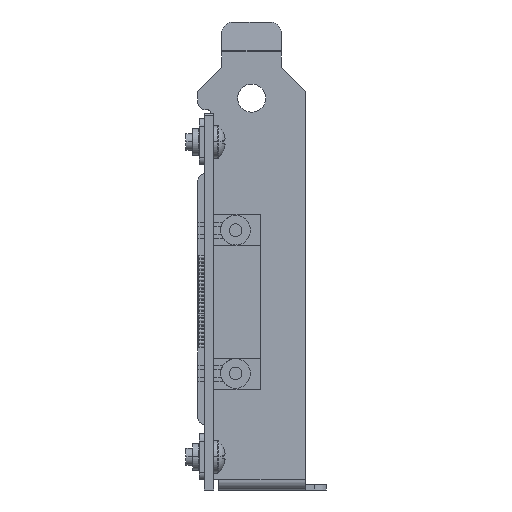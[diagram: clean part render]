
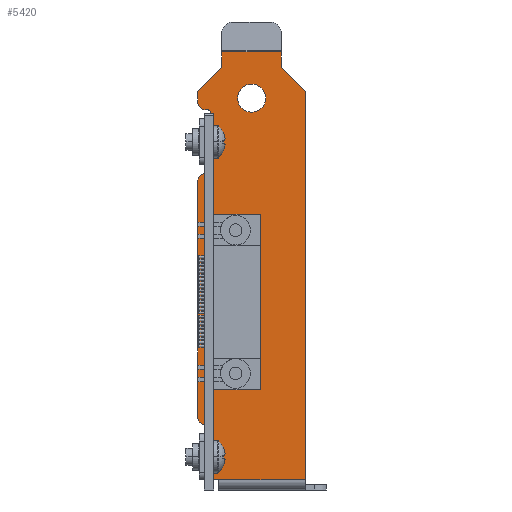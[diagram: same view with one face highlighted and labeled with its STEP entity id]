
A CAD part, front view. The second image highlights one B-rep face of the part: STEP entity #5420.
In plain terms, the highlighted planar face has unit normal (0, -1, 0).
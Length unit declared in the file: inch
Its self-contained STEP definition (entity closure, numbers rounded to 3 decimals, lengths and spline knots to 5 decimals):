
#175=CARTESIAN_POINT('',(0.005,0.336,0.267));
#176=DIRECTION('',(0.,-1.,0.));
#177=DIRECTION('',(-1.,0.,0.));
#178=AXIS2_PLACEMENT_3D('',#175,#176,#177);
#180=DIRECTION('',(-0.707,0.,-0.707));
#181=VECTOR('',#180,0.2291);
#182=CARTESIAN_POINT('',(0.117,0.336,0.502));
#183=LINE('',#182,#181);
#184=DIRECTION('',(0.,0.,-1.));
#185=VECTOR('',#184,0.104);
#186=CARTESIAN_POINT('',(0.117,0.336,0.606));
#187=LINE('',#186,#185);
#188=DIRECTION('',(1.,0.,0.));
#189=VECTOR('',#188,0.401);
#190=CARTESIAN_POINT('',(0.117,0.336,0.606));
#191=LINE('',#190,#189);
#192=DIRECTION('',(0.,0.,-1.));
#193=VECTOR('',#192,0.104);
#194=CARTESIAN_POINT('',(0.518,0.336,0.606));
#195=LINE('',#194,#193);
#196=DIRECTION('',(-0.707,0.,0.707));
#197=VECTOR('',#196,0.2291);
#198=CARTESIAN_POINT('',(0.68,0.336,0.34));
#199=LINE('',#198,#197);
#200=DIRECTION('',(0.,0.,1.));
#201=VECTOR('',#200,2.618);
#202=CARTESIAN_POINT('',(0.68,0.336,-2.278));
#203=LINE('',#202,#201);
#204=DIRECTION('',(-1.,0.,0.));
#205=VECTOR('',#204,0.584);
#206=CARTESIAN_POINT('',(0.68,0.336,-2.278));
#207=LINE('',#206,#205);
#208=DIRECTION('',(0.,0.,1.));
#209=VECTOR('',#208,0.312);
#210=CARTESIAN_POINT('',(0.015,0.336,-2.278));
#211=LINE('',#210,#209);
#212=CARTESIAN_POINT('',(0.015,0.336,-1.936));
#213=DIRECTION('',(0.,1.,0.));
#214=DIRECTION('',(0.,0.,1.));
#215=AXIS2_PLACEMENT_3D('',#212,#213,#214);
#217=DIRECTION('',(1.,0.,0.));
#218=VECTOR('',#217,0.01);
#219=CARTESIAN_POINT('',(0.005,0.336,-1.906));
#220=LINE('',#219,#218);
#221=DIRECTION('',(1.,0.,0.));
#222=VECTOR('',#221,0.01);
#223=CARTESIAN_POINT('',(0.005,0.336,-0.216));
#224=LINE('',#223,#222);
#225=CARTESIAN_POINT('',(0.015,0.336,-0.186));
#226=DIRECTION('',(0.,1.,0.));
#227=DIRECTION('',(0.,0.,1.));
#228=AXIS2_PLACEMENT_3D('',#225,#226,#227);
#230=DIRECTION('',(0.,0.,1.));
#231=VECTOR('',#230,0.312);
#232=CARTESIAN_POINT('',(0.015,0.336,-0.156));
#233=LINE('',#232,#231);
#234=CARTESIAN_POINT('',(0.015,0.336,0.1865));
#235=DIRECTION('',(0.,1.,0.));
#236=DIRECTION('',(0.,0.,1.));
#237=AXIS2_PLACEMENT_3D('',#234,#235,#236);
#239=DIRECTION('',(1.,0.,0.));
#240=VECTOR('',#239,0.01);
#241=CARTESIAN_POINT('',(0.005,0.336,0.217));
#242=LINE('',#241,#240);
#243=CARTESIAN_POINT('',(0.318,0.336,0.294));
#244=DIRECTION('',(0.,1.,0.));
#245=DIRECTION('',(-1.,0.,0.));
#246=AXIS2_PLACEMENT_3D('',#243,#244,#245);
#248=CARTESIAN_POINT('',(0.318,0.336,0.294));
#249=DIRECTION('',(0.,1.,0.));
#250=DIRECTION('',(1.,0.,0.));
#251=AXIS2_PLACEMENT_3D('',#248,#249,#250);
#257=DIRECTION('',(0.,0.,1.));
#258=VECTOR('',#257,0.073);
#259=CARTESIAN_POINT('',(-0.045,0.336,0.267));
#260=LINE('',#259,#258);
#567=DIRECTION('',(1.,0.,0.));
#568=VECTOR('',#567,0.081);
#569=CARTESIAN_POINT('',(0.015,0.336,-2.278));
#570=LINE('',#569,#568);
#1297=CARTESIAN_POINT('',(0.005,0.336,-0.266));
#1298=DIRECTION('',(0.,-1.,0.));
#1299=DIRECTION('',(0.,0.,1.));
#1300=AXIS2_PLACEMENT_3D('',#1297,#1298,#1299);
#1311=DIRECTION('',(0.,0.,1.));
#1312=VECTOR('',#1311,1.59);
#1313=CARTESIAN_POINT('',(-0.045,0.336,-1.856));
#1314=LINE('',#1313,#1312);
#1332=CARTESIAN_POINT('',(0.005,0.336,-1.856));
#1333=DIRECTION('',(0.,-1.,0.));
#1334=DIRECTION('',(-1.,0.,0.));
#1335=AXIS2_PLACEMENT_3D('',#1332,#1333,#1334);
#1929=DIRECTION('',(-1.,0.,0.));
#1930=VECTOR('',#1929,0.315);
#1931=CARTESIAN_POINT('',(0.377,0.336,-0.4865));
#1932=LINE('',#1931,#1930);
#1937=DIRECTION('',(0.,0.,1.));
#1938=VECTOR('',#1937,1.183);
#1939=CARTESIAN_POINT('',(0.377,0.336,-1.6695));
#1940=LINE('',#1939,#1938);
#1949=DIRECTION('',(1.,0.,0.));
#1950=VECTOR('',#1949,0.315);
#1951=CARTESIAN_POINT('',(0.062,0.336,-1.6695));
#1952=LINE('',#1951,#1950);
#1957=DIRECTION('',(0.,0.,-1.));
#1958=VECTOR('',#1957,1.183);
#1959=CARTESIAN_POINT('',(0.062,0.336,-0.4865));
#1960=LINE('',#1959,#1958);
#4607=CARTESIAN_POINT('',(0.117,0.336,0.502));
#4608=CARTESIAN_POINT('',(-0.045,0.336,0.34));
#4609=VERTEX_POINT('',#4607);
#4610=VERTEX_POINT('',#4608);
#4611=CARTESIAN_POINT('',(0.68,0.336,-2.278));
#4612=CARTESIAN_POINT('',(0.68,0.336,0.34));
#4613=VERTEX_POINT('',#4611);
#4614=VERTEX_POINT('',#4612);
#4615=CARTESIAN_POINT('',(0.518,0.336,0.502));
#4616=VERTEX_POINT('',#4615);
#4671=CARTESIAN_POINT('',(0.117,0.336,0.606));
#4672=VERTEX_POINT('',#4671);
#4673=CARTESIAN_POINT('',(0.518,0.336,0.606));
#4674=VERTEX_POINT('',#4673);
#4691=CARTESIAN_POINT('',(0.096,0.336,-2.278));
#4693=VERTEX_POINT('',#4691);
#4715=CARTESIAN_POINT('',(0.015,0.336,-1.906));
#4716=CARTESIAN_POINT('',(0.015,0.336,-1.966));
#4717=VERTEX_POINT('',#4715);
#4718=VERTEX_POINT('',#4716);
#4727=CARTESIAN_POINT('',(0.015,0.336,0.217));
#4728=CARTESIAN_POINT('',(0.015,0.336,0.156));
#4729=VERTEX_POINT('',#4727);
#4730=VERTEX_POINT('',#4728);
#4731=CARTESIAN_POINT('',(0.015,0.336,-0.156));
#4732=CARTESIAN_POINT('',(0.015,0.336,-0.216));
#4733=VERTEX_POINT('',#4731);
#4734=VERTEX_POINT('',#4732);
#4737=CARTESIAN_POINT('',(0.015,0.336,-2.278));
#4738=VERTEX_POINT('',#4737);
#4772=CARTESIAN_POINT('',(0.005,0.336,0.217));
#4774=VERTEX_POINT('',#4772);
#4777=CARTESIAN_POINT('',(-0.045,0.336,0.267));
#4778=VERTEX_POINT('',#4777);
#4779=CARTESIAN_POINT('',(0.005,0.336,-0.216));
#4781=VERTEX_POINT('',#4779);
#4783=CARTESIAN_POINT('',(-0.045,0.336,-0.266));
#4784=VERTEX_POINT('',#4783);
#4788=CARTESIAN_POINT('',(0.005,0.336,-1.906));
#4790=VERTEX_POINT('',#4788);
#4793=CARTESIAN_POINT('',(-0.045,0.336,-1.856));
#4794=VERTEX_POINT('',#4793);
#4839=CARTESIAN_POINT('',(0.2235,0.336,0.294));
#4840=CARTESIAN_POINT('',(0.4125,0.336,0.294));
#4841=VERTEX_POINT('',#4839);
#4842=VERTEX_POINT('',#4840);
#4883=CARTESIAN_POINT('',(0.062,0.336,-1.6695));
#4884=CARTESIAN_POINT('',(0.377,0.336,-1.6695));
#4885=VERTEX_POINT('',#4883);
#4886=VERTEX_POINT('',#4884);
#4887=CARTESIAN_POINT('',(0.377,0.336,-0.4865));
#4888=VERTEX_POINT('',#4887);
#4889=CARTESIAN_POINT('',(0.062,0.336,-0.4865));
#4890=VERTEX_POINT('',#4889);
#5357=CARTESIAN_POINT('',(0.821,0.336,-2.278));
#5358=DIRECTION('',(0.,1.,0.));
#5359=DIRECTION('',(0.,0.,1.));
#5360=AXIS2_PLACEMENT_3D('',#5357,#5358,#5359);
#5361=PLANE('',#5360);
#5362=ORIENTED_EDGE('',*,*,#5338,.F.);
#5364=ORIENTED_EDGE('',*,*,#5363,.T.);
#5366=ORIENTED_EDGE('',*,*,#5365,.F.);
#5368=ORIENTED_EDGE('',*,*,#5367,.F.);
#5370=ORIENTED_EDGE('',*,*,#5369,.T.);
#5372=ORIENTED_EDGE('',*,*,#5371,.T.);
#5374=ORIENTED_EDGE('',*,*,#5373,.F.);
#5376=ORIENTED_EDGE('',*,*,#5375,.F.);
#5378=ORIENTED_EDGE('',*,*,#5377,.T.);
#5380=ORIENTED_EDGE('',*,*,#5379,.F.);
#5382=ORIENTED_EDGE('',*,*,#5381,.T.);
#5384=ORIENTED_EDGE('',*,*,#5383,.F.);
#5386=ORIENTED_EDGE('',*,*,#5385,.F.);
#5388=ORIENTED_EDGE('',*,*,#5387,.F.);
#5390=ORIENTED_EDGE('',*,*,#5389,.T.);
#5392=ORIENTED_EDGE('',*,*,#5391,.F.);
#5394=ORIENTED_EDGE('',*,*,#5393,.T.);
#5396=ORIENTED_EDGE('',*,*,#5395,.F.);
#5398=ORIENTED_EDGE('',*,*,#5397,.T.);
#5400=ORIENTED_EDGE('',*,*,#5399,.F.);
#5401=ORIENTED_EDGE('',*,*,#5349,.F.);
#5402=EDGE_LOOP('',(#5362,#5364,#5366,#5368,#5370,#5372,#5374,#5376,#5378,#5380,
#5382,#5384,#5386,#5388,#5390,#5392,#5394,#5396,#5398,#5400,#5401));
#5403=FACE_OUTER_BOUND('',#5402,.F.);
#5405=ORIENTED_EDGE('',*,*,#5404,.F.);
#5407=ORIENTED_EDGE('',*,*,#5406,.F.);
#5408=EDGE_LOOP('',(#5405,#5407));
#5409=FACE_BOUND('',#5408,.F.);
#5411=ORIENTED_EDGE('',*,*,#5410,.T.);
#5413=ORIENTED_EDGE('',*,*,#5412,.T.);
#5415=ORIENTED_EDGE('',*,*,#5414,.T.);
#5417=ORIENTED_EDGE('',*,*,#5416,.T.);
#5418=EDGE_LOOP('',(#5411,#5413,#5415,#5417));
#5419=FACE_BOUND('',#5418,.F.);
#5420=ADVANCED_FACE('',(#5403,#5409,#5419),#5361,.F.);
#179=CIRCLE('',#178,0.05);
#216=CIRCLE('',#215,0.03);
#229=CIRCLE('',#228,0.03);
#238=CIRCLE('',#237,0.0305);
#247=CIRCLE('',#246,0.0945);
#252=CIRCLE('',#251,0.0945);
#1301=CIRCLE('',#1300,0.05);
#1336=CIRCLE('',#1335,0.05);
#5338=EDGE_CURVE('',#4778,#4774,#179,.T.);
#5349=EDGE_CURVE('',#4774,#4729,#242,.T.);
#5363=EDGE_CURVE('',#4778,#4610,#260,.T.);
#5365=EDGE_CURVE('',#4609,#4610,#183,.T.);
#5367=EDGE_CURVE('',#4672,#4609,#187,.T.);
#5369=EDGE_CURVE('',#4672,#4674,#191,.T.);
#5371=EDGE_CURVE('',#4674,#4616,#195,.T.);
#5373=EDGE_CURVE('',#4614,#4616,#199,.T.);
#5375=EDGE_CURVE('',#4613,#4614,#203,.T.);
#5377=EDGE_CURVE('',#4613,#4693,#207,.T.);
#5379=EDGE_CURVE('',#4738,#4693,#570,.T.);
#5381=EDGE_CURVE('',#4738,#4718,#211,.T.);
#5383=EDGE_CURVE('',#4717,#4718,#216,.T.);
#5385=EDGE_CURVE('',#4790,#4717,#220,.T.);
#5387=EDGE_CURVE('',#4794,#4790,#1336,.T.);
#5389=EDGE_CURVE('',#4794,#4784,#1314,.T.);
#5391=EDGE_CURVE('',#4781,#4784,#1301,.T.);
#5393=EDGE_CURVE('',#4781,#4734,#224,.T.);
#5395=EDGE_CURVE('',#4733,#4734,#229,.T.);
#5397=EDGE_CURVE('',#4733,#4730,#233,.T.);
#5399=EDGE_CURVE('',#4729,#4730,#238,.T.);
#5404=EDGE_CURVE('',#4841,#4842,#247,.T.);
#5406=EDGE_CURVE('',#4842,#4841,#252,.T.);
#5410=EDGE_CURVE('',#4885,#4886,#1952,.T.);
#5412=EDGE_CURVE('',#4886,#4888,#1940,.T.);
#5414=EDGE_CURVE('',#4888,#4890,#1932,.T.);
#5416=EDGE_CURVE('',#4890,#4885,#1960,.T.);
